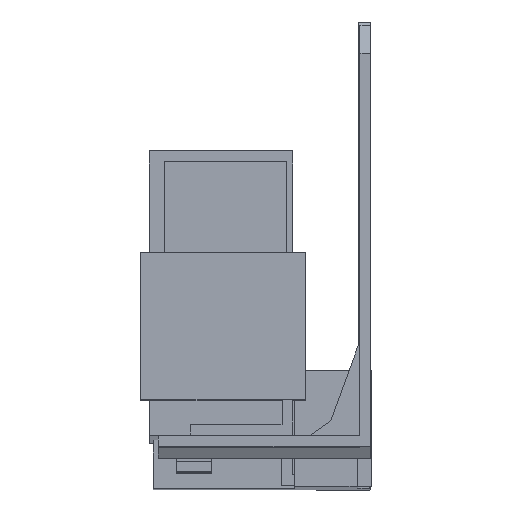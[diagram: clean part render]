
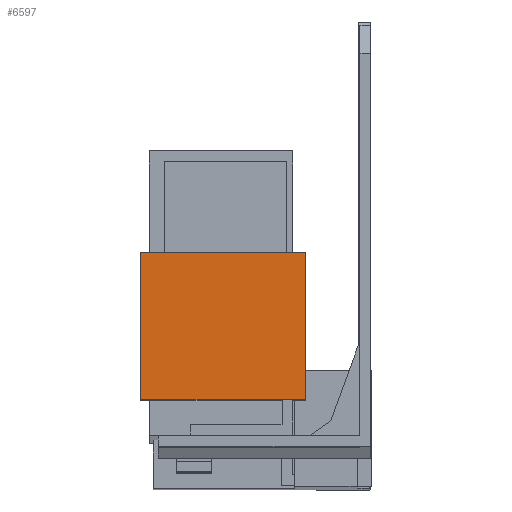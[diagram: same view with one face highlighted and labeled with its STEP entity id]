
A CAD part, front view. The second image highlights one B-rep face of the part: STEP entity #6597.
In plain terms, the highlighted planar face has unit normal (0, -1, 0.003).
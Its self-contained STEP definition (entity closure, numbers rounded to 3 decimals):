
#292 = EDGE_LOOP ( 'NONE', ( #566, #404, #417, #504 ) ) ;
#404 = ORIENTED_EDGE ( 'NONE', *, *, #5049, .F. ) ;
#417 = ORIENTED_EDGE ( 'NONE', *, *, #5051, .F. ) ;
#504 = ORIENTED_EDGE ( 'NONE', *, *, #5059, .T. ) ;
#566 = ORIENTED_EDGE ( 'NONE', *, *, #5045, .T. ) ;
#627 = AXIS2_PLACEMENT_3D ( 'NONE', #2071, #2077, #2078 ) ;
#1827 = CARTESIAN_POINT ( 'NONE',  ( -9.3, -28.952, -19.322 ) ) ;
#1828 = CARTESIAN_POINT ( 'NONE',  ( -32.7, -28.952, -19.322 ) ) ;
#1829 = CARTESIAN_POINT ( 'NONE',  ( -32.7, -29.009, -40.322 ) ) ;
#1830 = CARTESIAN_POINT ( 'NONE',  ( -9.3, -29.009, -40.322 ) ) ;
#2068 = PLANE ( 'NONE',  #627 ) ;
#2071 = CARTESIAN_POINT ( 'NONE',  ( -9.3, -29.009, -40.322 ) ) ;
#2077 = DIRECTION ( 'NONE',  ( 0., -1., 0.003 ) ) ;
#2078 = DIRECTION ( 'NONE',  ( 1., 0., 0. ) ) ;
#3298 = LINE ( 'NONE', #6413, #3305 ) ;
#3301 = LINE ( 'NONE', #6411, #3302 ) ;
#3302 = VECTOR ( 'NONE', #6412, 1000. ) ;
#3305 = VECTOR ( 'NONE', #6416, 1000. ) ;
#3309 = LINE ( 'NONE', #6419, #3310 ) ;
#3310 = VECTOR ( 'NONE', #6420, 1000. ) ;
#3315 = LINE ( 'NONE', #6425, #3316 ) ;
#3316 = VECTOR ( 'NONE', #6426, 1000. ) ;
#3755 = FACE_OUTER_BOUND ( 'NONE', #292, .T. ) ;
#5045 = EDGE_CURVE ( 'NONE', #5416, #5417, #3301, .T. ) ;
#5049 = EDGE_CURVE ( 'NONE', #5418, #5417, #3298, .T. ) ;
#5051 = EDGE_CURVE ( 'NONE', #5419, #5418, #3309, .T. ) ;
#5059 = EDGE_CURVE ( 'NONE', #5419, #5416, #3315, .T. ) ;
#5416 = VERTEX_POINT ( 'NONE', #1827 ) ;
#5417 = VERTEX_POINT ( 'NONE', #1828 ) ;
#5418 = VERTEX_POINT ( 'NONE', #1829 ) ;
#5419 = VERTEX_POINT ( 'NONE', #1830 ) ;
#6411 = CARTESIAN_POINT ( 'NONE',  ( -9.3, -28.952, -19.322 ) ) ;
#6412 = DIRECTION ( 'NONE',  ( -1., 0., 0. ) ) ;
#6413 = CARTESIAN_POINT ( 'NONE',  ( -32.7, -29.009, -40.322 ) ) ;
#6416 = DIRECTION ( 'NONE',  ( 0., 0.003, 1. ) ) ;
#6419 = CARTESIAN_POINT ( 'NONE',  ( -9.3, -29.009, -40.322 ) ) ;
#6420 = DIRECTION ( 'NONE',  ( -1., 0., 0. ) ) ;
#6425 = CARTESIAN_POINT ( 'NONE',  ( -9.3, -29.009, -40.322 ) ) ;
#6426 = DIRECTION ( 'NONE',  ( 0., 0.003, 1. ) ) ;
#6597 = ADVANCED_FACE ( 'NONE', ( #3755 ), #2068, .T. ) ;
